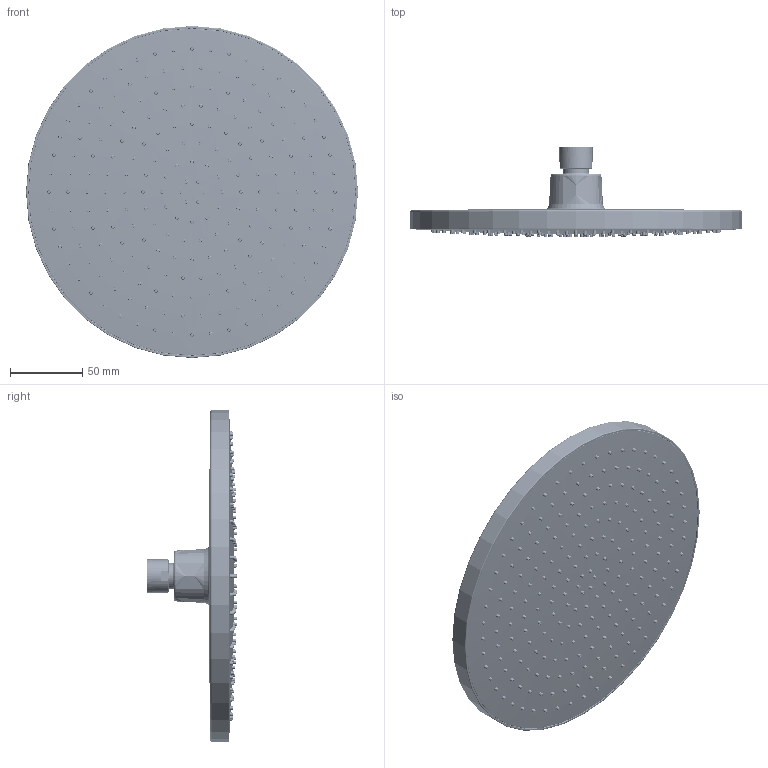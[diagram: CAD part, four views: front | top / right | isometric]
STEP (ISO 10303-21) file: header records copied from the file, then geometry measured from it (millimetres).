
FILE_DESCRIPTION((''),'2;1');
FILE_NAME('P43301_ASM','2020-06-17T16:13:13',('xiaohong_yang'),(''),'CREO PARAMETRIC BY PTC INC, 2018050','CREO PARAMETRIC BY PTC INC, 2018050','');
FILE_SCHEMA(('CONFIG_CONTROL_DESIGN'));
Length unit declared in the file: millimetre
Products named in the file (7): P43301-002; P43300-001; P10202-024; P43300-005; P10100-003; P60400-032; P43301_ASM
Assembly tree (6 placements, depth 2):
  P43301_ASM
    P43301-002
    P43300-001
    P10202-024
    P43300-005
    P10100-003
    P60400-032
Bounding box: 229.99 x 62.26 x 229.99 mm (x, y, z)
Volume: 225054.3 mm3; surface area: 228157 mm2
Topology: 6 solids, 6 shells, 7701 faces, 24798 edges, 15531 vertices
Faces by surface type: cylinder 2743, cone 2207, bspline 1144, torus 786, plane 724, sphere 89, revolution 8
Entity records: 468548 total; most frequent: CARTESIAN_POINT 270191, ORIENTED_EDGE 49468, DIRECTION 32150, EDGE_CURVE 24734, VERTEX_POINT 15531, AXIS2_PLACEMENT_3D 12472, B_SPLINE_CURVE_WITH_KNOTS 11634, EDGE_LOOP 8809
